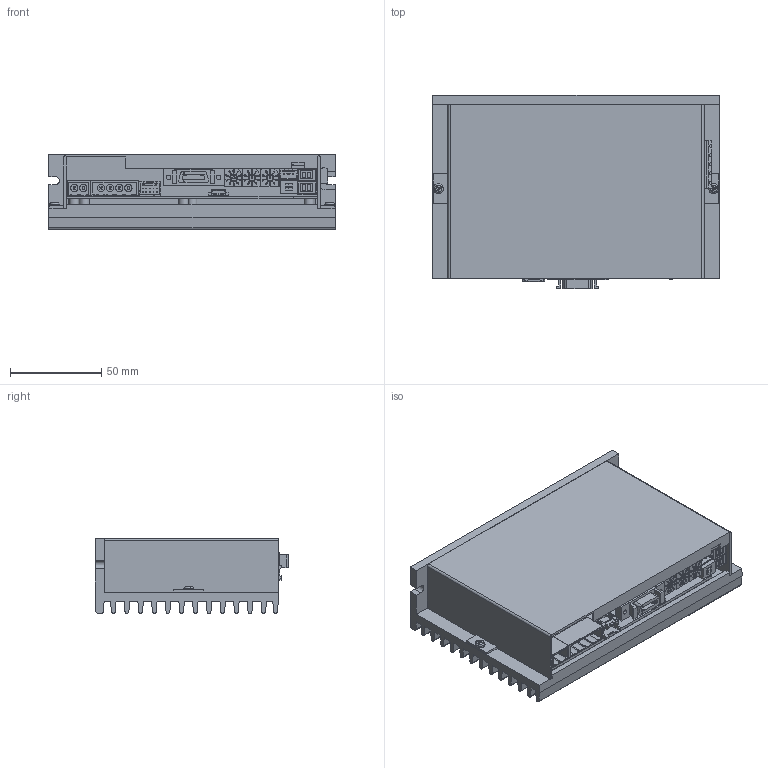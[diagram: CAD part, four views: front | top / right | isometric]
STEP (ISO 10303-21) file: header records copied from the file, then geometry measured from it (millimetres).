
FILE_DESCRIPTION (( 'STEP AP203' ), '1' );
FILE_NAME ('P1Z-DR-086-01-R00.STEP', '2018-06-26T06:30:20', ( '' ), ( '' ), 'SwSTEP 2.0', 'SolidWorks 2013', '' );
FILE_SCHEMA (( 'CONFIG_CONTROL_DESIGN' ));
Length unit declared in the file: millimetre
Products named in the file (22): P1Z-DR-086-01-R00; M1Z-DR-086-01-R00; 浚内歹 立加 目池磐; AC ﾀﾔﾃ箙ﾂ ﾁ｢ｼﾓ ﾄｿｳﾘﾅﾍ; 9; だ塭嘐攪 撲薑 鐘喀攪; EtherCAT PCB_1; _S-2031A_body; 5; M1B-DR-086-01-R00_1; _Without knob-Dial_1; _X2_D30CD2B8_X0_96; NetBase PCB_1; S-2031A; _X2_D30CD2B8_X0_94; pan cross head_ks_KS 1023 PC- M3 x 5-N; 02A; 12; 萄塭檜粽 瞪錳 鐘喀攪 86; PTR_STL950_5G_50_H; 萄塭檜粽 瞪錳 鐘喀攪 б 86; 賅攪 醞啗 鐘喀攪 86
Assembly tree (31 placements, depth 3):
  P1Z-DR-086-01-R00
    M1B-DR-086-01-R00_1
    NetBase PCB_1
    pan cross head_ks_KS 1023 PC- M3 x 5-N  x2
    萄塭檜粽 瞪錳 鐘喀攪 86
    賅攪 醞啗 鐘喀攪 86
    浚内歹 立加 目池磐
    9
    EtherCAT PCB_1
    5  x2
    12  x2
      _X2_D30CD2B8_X0_96
      _X2_D30CD2B8_X0_94
    萄塭檜粽 瞪錳 鐘喀攪 б 86  x6
    M1Z-DR-086-01-R00
    AC ﾀﾔﾃ箙ﾂ ﾁ｢ｼﾓ ﾄｿｳﾘﾅﾍ
    だ塭嘐攪 撲薑 鐘喀攪
    S-2031A  x3
      _S-2031A_body
      _Without knob-Dial_1
    02A
    PTR_STL950_5G_50_H
Bounding box: 157 x 106.36 x 41 mm (x, y, z)
Volume: 204389.7 mm3; surface area: 164182.8 mm2
Topology: 33 solids, 34 shells, 3064 faces, 8035 edges, 5178 vertices
Faces by surface type: plane 1848, cylinder 946, bspline 185, cone 61, torus 20, sphere 4
Entity records: 102029 total; most frequent: CARTESIAN_POINT 44905, ORIENTED_EDGE 11838, DIRECTION 10440, EDGE_CURVE 5933, VECTOR 4138, LINE 4138, VERTEX_POINT 3812, AXIS2_PLACEMENT_3D 3151
